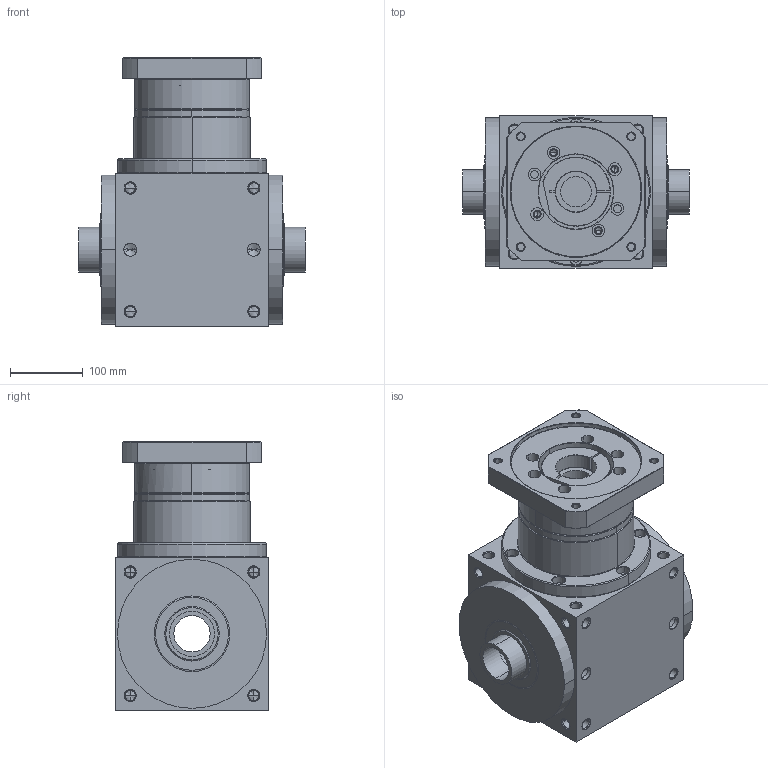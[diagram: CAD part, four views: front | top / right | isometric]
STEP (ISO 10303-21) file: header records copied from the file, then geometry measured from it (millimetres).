
FILE_DESCRIPTION((''),'2;1');
FILE_NAME('AT210FC1-P0403600601_ASM','2009-01-21T',('d00080'),(''),'PRO/ENGINEER BY PARAMETRIC TECHNOLOGY CORPORATION, 2006170','PRO/ENGINEER BY PARAMETRIC TECHNOLOGY CORPORATION, 2006170','');
FILE_SCHEMA(('CONFIG_CONTROL_DESIGN'));
Length unit declared in the file: millimetre
Products named in the file (6): AT210FC-A; P1801800001; P1502800001; P0501600001; P0403600601; AT210FC1-P0403600601_ASM
Assembly tree (5 placements, depth 2):
  AT210FC1-P0403600601_ASM
    AT210FC-A
    P1801800001
    P1502800001
    P0501600001
    P0403600601
Bounding box: 312 x 210 x 369 mm (x, y, z)
Volume: 12204569 mm3; surface area: 766754.5 mm2
Topology: 5 solids, 47 shells, 807 faces, 2017 edges, 1223 vertices
Faces by surface type: cylinder 358, cone 292, plane 125, torus 32
Entity records: 24916 total; most frequent: CARTESIAN_POINT 5405, DIRECTION 4396, ORIENTED_EDGE 3706, EDGE_CURVE 1937, AXIS2_PLACEMENT_3D 1854, VERTEX_POINT 1223, CIRCLE 1026, EDGE_LOOP 980
